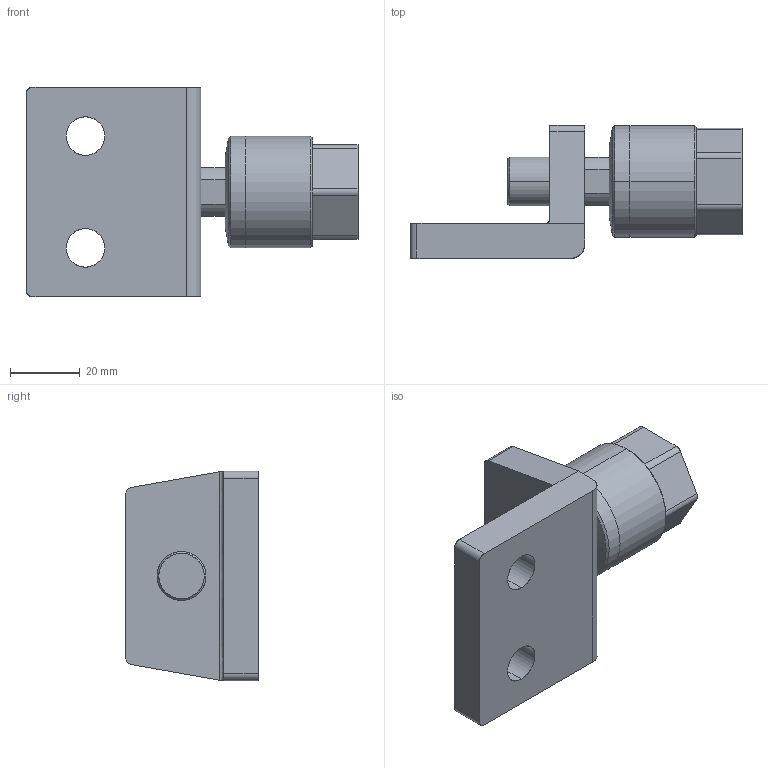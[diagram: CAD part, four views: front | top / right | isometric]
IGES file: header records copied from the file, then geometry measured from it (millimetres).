
Start section: SolidWorks IGES file using analytic representation for surfaces
Global section: file name: C:\Users\Toshiba\Desktop\FCM14A-1.5-L.IGS; native system: SolidWorks 2014; preprocessor: SolidWorks 2014; author: Toshiba; date: 160414.095830; units: millimetre
Bounding box: 95 x 38 x 60 mm (x, y, z)
Surface area: 19210.9 mm2 (no closed solid volume)
Topology: 0 solids, 0 shells, 68 faces, 840 edges, 838 vertices
Faces by surface type: revolution 40, bspline 28
